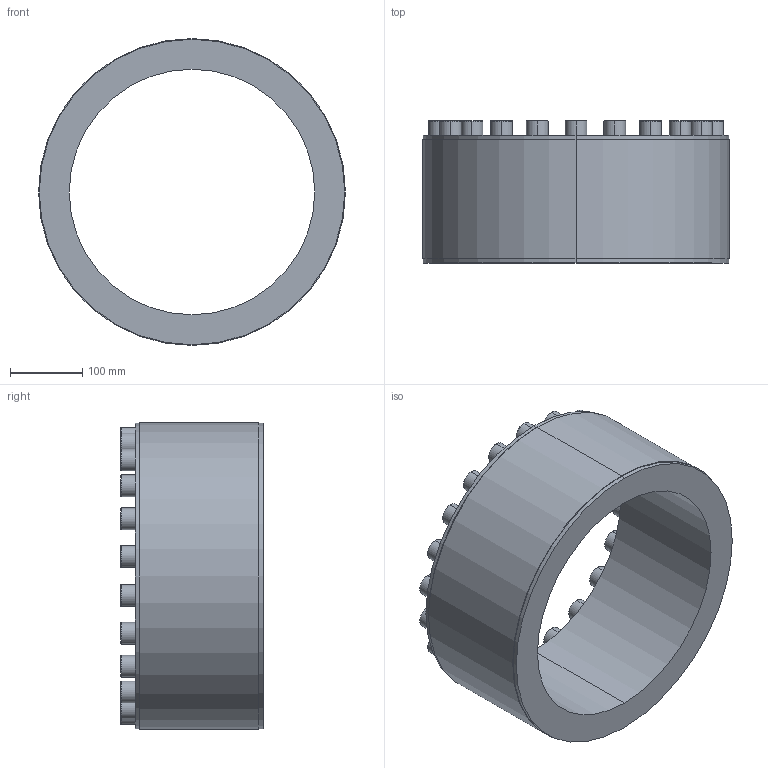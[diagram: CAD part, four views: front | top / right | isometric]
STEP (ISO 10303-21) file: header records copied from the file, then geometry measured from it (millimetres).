
FILE_DESCRIPTION (( 'STEP AP203' ), '1' );
FILE_NAME ('PL-D1 340-425.STEP', '2021-10-23T00:25:49', ( '' ), ( '' ), 'SwSTEP 2.0', 'SolidWorks 2018', '' );
FILE_SCHEMA (( 'CONFIG_CONTROL_DESIGN' ));
Length unit declared in the file: millimetre
Products named in the file (1): PL-D1 340-425
Bounding box: 425 x 197 x 425 mm (x, y, z)
Volume: 9279342.2 mm3; surface area: 581430.3 mm2
Topology: 1 solids, 1 shells, 276 faces, 640 edges, 412 vertices
Faces by surface type: plane 180, cylinder 52, torus 44
Entity records: 7885 total; most frequent: DIRECTION 1386, CARTESIAN_POINT 1329, ORIENTED_EDGE 1280, EDGE_CURVE 640, AXIS2_PLACEMENT_3D 469, LINE 448, VECTOR 448, VERTEX_POINT 412
